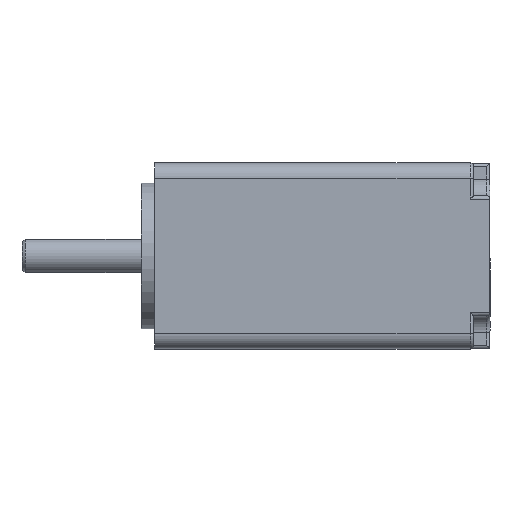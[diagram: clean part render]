
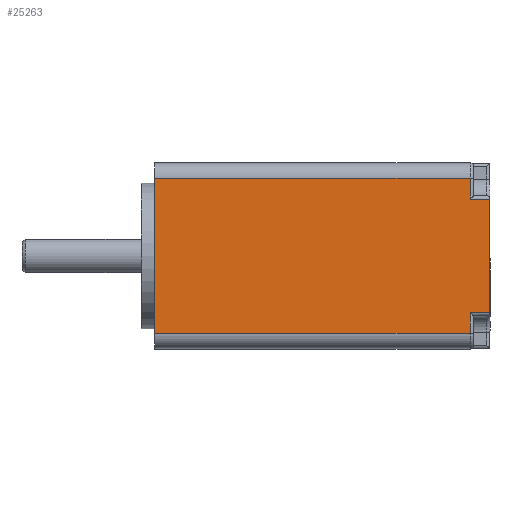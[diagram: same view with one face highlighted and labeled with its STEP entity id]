
A CAD part, top view. The second image highlights one B-rep face of the part: STEP entity #25263.
In plain terms, the highlighted planar face has unit normal (0, 0, 1).
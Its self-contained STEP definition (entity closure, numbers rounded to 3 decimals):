
#15372=CARTESIAN_POINT('',(50.55,8.55,14.));
#15373=VERTEX_POINT('',#15372);
#15380=CARTESIAN_POINT('',(50.55,-8.55,14.));
#15381=VERTEX_POINT('',#15380);
#15382=CARTESIAN_POINT('',(50.55,8.55,14.));
#15383=DIRECTION('',(0.,-1.,0.));
#15384=VECTOR('',#15383,17.1);
#15385=LINE('',#15382,#15384);
#15386=EDGE_CURVE('',#15373,#15381,#15385,.T.);
#16374=CARTESIAN_POINT('',(47.55,8.55,14.));
#16375=VERTEX_POINT('',#16374);
#16385=CARTESIAN_POINT('',(47.55,8.55,14.));
#16386=DIRECTION('',(1.,0.,0.));
#16387=VECTOR('',#16386,3.);
#16388=LINE('',#16385,#16387);
#16389=EDGE_CURVE('',#16375,#15373,#16388,.T.);
#16399=CARTESIAN_POINT('',(47.55,-11.7,14.));
#16400=VERTEX_POINT('',#16399);
#16418=CARTESIAN_POINT('',(47.55,-8.55,14.));
#16419=VERTEX_POINT('',#16418);
#16429=CARTESIAN_POINT('',(47.55,-8.55,14.));
#16430=DIRECTION('',(0.,-1.,0.));
#16431=VECTOR('',#16430,3.15);
#16432=LINE('',#16429,#16431);
#16433=EDGE_CURVE('',#16419,#16400,#16432,.T.);
#16443=CARTESIAN_POINT('',(50.55,-8.55,14.));
#16444=DIRECTION('',(-1.,0.,0.));
#16445=VECTOR('',#16444,3.);
#16446=LINE('',#16443,#16445);
#16447=EDGE_CURVE('',#15381,#16419,#16446,.T.);
#16467=CARTESIAN_POINT('',(47.55,11.7,14.));
#16468=VERTEX_POINT('',#16467);
#16476=CARTESIAN_POINT('',(47.55,11.7,14.));
#16477=DIRECTION('',(0.,-1.,0.));
#16478=VECTOR('',#16477,3.15);
#16479=LINE('',#16476,#16478);
#16480=EDGE_CURVE('',#16468,#16375,#16479,.T.);
#24899=CARTESIAN_POINT('',(0.,11.7,14.));
#24900=VERTEX_POINT('',#24899);
#24908=CARTESIAN_POINT('',(0.,11.7,14.));
#24909=DIRECTION('',(1.,0.,0.));
#24910=VECTOR('',#24909,47.55);
#24911=LINE('',#24908,#24910);
#24912=EDGE_CURVE('',#24900,#16468,#24911,.T.);
#24923=CARTESIAN_POINT('',(0.,-11.7,14.));
#24924=VERTEX_POINT('',#24923);
#24925=CARTESIAN_POINT('',(47.55,-11.7,14.));
#24926=DIRECTION('',(-1.,0.,0.));
#24927=VECTOR('',#24926,47.55);
#24928=LINE('',#24925,#24927);
#24929=EDGE_CURVE('',#16400,#24924,#24928,.T.);
#25243=CARTESIAN_POINT('',(31.275,0.,14.));
#25244=DIRECTION('',(0.,1.,0.));
#25245=DIRECTION('',(0.,-0.,1.));
#25246=AXIS2_PLACEMENT_3D('',#25243,#25245,#25244);
#25247=PLANE('',#25246);
#25248=ORIENTED_EDGE('',*,*,#16433,.F.);
#25249=ORIENTED_EDGE('',*,*,#16447,.F.);
#25250=ORIENTED_EDGE('',*,*,#15386,.F.);
#25251=ORIENTED_EDGE('',*,*,#16389,.F.);
#25252=ORIENTED_EDGE('',*,*,#16480,.F.);
#25253=ORIENTED_EDGE('',*,*,#24912,.F.);
#25254=CARTESIAN_POINT('',(0.,11.7,14.));
#25255=DIRECTION('',(0.,-1.,0.));
#25256=VECTOR('',#25255,23.4);
#25257=LINE('',#25254,#25256);
#25258=EDGE_CURVE('',#24900,#24924,#25257,.T.);
#25259=ORIENTED_EDGE('E2316',*,*,#25258,.T.);
#25260=ORIENTED_EDGE('E2316',*,*,#24929,.F.);
#25261=EDGE_LOOP('',(#25248,#25249,#25250,#25251,#25252,#25253,#25259,#25260));
#25262=FACE_OUTER_BOUND('',#25261,.T.);
#25263=ADVANCED_FACE('F704',(#25262),#25247,.T.);
